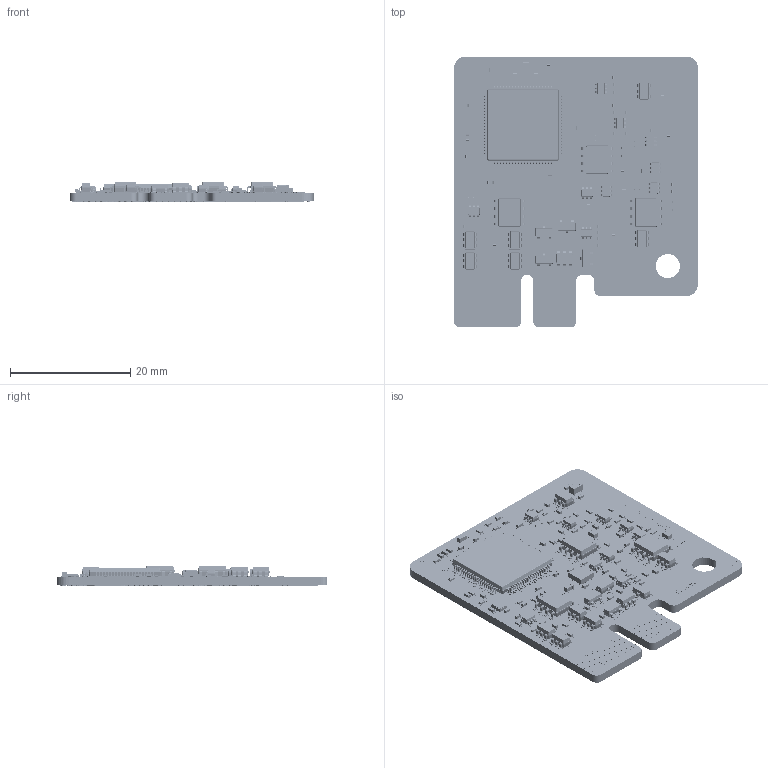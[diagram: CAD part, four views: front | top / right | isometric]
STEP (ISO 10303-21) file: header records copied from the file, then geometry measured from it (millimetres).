
FILE_DESCRIPTION(/* description */ (''),/* implementation_level */ '2;1');
FILE_NAME(/* name */ 'C:/work/PADS designs/SlotTypeModule/TMCM-MCU/V12/3D/TMCM-0930_V12.step',/* time_stamp */ '2020-11-03T16:26:38+02:00',/* author */ (''),/* organization */ (''),/* preprocessor_version */ 'ST-DEVELOPER v18.1',/* originating_system */ 'Autodesk Translation Framework v9.3.0.1241',/* authorisation */ '');
FILE_SCHEMA (('AUTOMOTIVE_DESIGN { 1 0 10303 214 3 1 1 }'));
Products named in the file (110): TMCM-0930_V12; DesignRootModel; Submodel-REFF9505_part_simplified_R0402; Submodel-DIE225C4_part_simplified_SOT23D; Submodel-DIE225C4_part_simplified_SOT23F; Submodel-DIE225C4_part_simplified_SOT23E; Submodel-C:workDS designslotTypeModuleTMCM-MCUV12CADTMCM-0930_V12_PCB
3DInput_Ssot23.xtd; sot23; Submodel-DICEEA91_part_simplified_SOT23-6H; Submodel-DICEEA91_part_simplified_SOT23-6F; Submodel-DICEEA91_part_simplified_SOT23-6E; Submodel-CAB2742A_part_simplified_C0402P; Submodel-CAB2742A_part_simplified_C0402H; Submodel-CA1180F6_part_simplified_C0603; Submodel-CA1180F6_part_simplified_C0603B; Submodel-C:workDS designslotTypeModuleTMCM-MCUV12CADTMCM-0930_V12_PCB
3DInput_Sc0603.xtd; c0603; Submodel-CAB2742A_part_simplified_C0402F; Submodel-REFF9505_part_simplified_R0402B; Submodel-noModelForPart_REFF9505; r0402.xtd; Submodel-INA599E7_part_simplified_R0402; Submodel-CAB2742A_part_simplified_C0402E; Submodel-CAB2742A_part_simplified_C0402I; Submodel-CAB2742A_part_simplified_C0402U; Submodel-CAB2742A_part_simplified_C0402O; Submodel-CAB2742A_part_simplified_C0402R; Submodel-CAB2742A_part_simplified_C0402G; Submodel-REE0DFA5_part_simplified_R0402; Submodel-IC168FEA_part_simplified_SOT363E; Submodel-IC168FEA_part_simplified_SOT363; Submodel-C:workDS designslotTypeModuleTMCM-MCUV12CADTMCM-0930_V12_PCB
3DInput_Ssot363.xtd; sot363; Submodel-DICEEA91_part_simplified_SOT23-6GA; Submodel-DICEEA91_part_simplified_SOT23-6I; Submodel-CAB2742A_part_simplified_C0402J; Submodel-CAB2742A_part_simplified_C0402M; Submodel-CA8114A5_part_simplified_C0805; Submodel-C:workDS designslotTypeModuleTMCM-MCUV12CADTMCM-0930_V12_PCB
3DInput_Sc0805.xtd; c0805 ...
Assembly tree (204 placements, depth 5):
  TMCM-0930_V12
    DesignRootModel
      Submodel-REFF9505_part_simplified_R0402
        Submodel-noModelForPart_REFF9505
          r0402.xtd
      Submodel-RED988E7_part_simplified_R0402  x29
        Submodel-C:workDS designslotTypeModuleTMCM-MCUV12CADTMCM-0930_V12_PCB
3DInput_Sr0402.xtd
          r0402
      Submodel-CA39294E_part_simplified_C0402  x2
        Submodel-C:workDS designslotTypeModuleTMCM-MCUV12CADTMCM-0930_V12_PCB
3DInput_Sc0402.xtd
          c0402
      Submodel-DIE225C4_part_simplified_SOT23D
        Submodel-C:workDS designslotTypeModuleTMCM-MCUV12CADTMCM-0930_V12_PCB
3DInput_Ssot23.xtd
          sot23
      Submodel-DIE225C4_part_simplified_SOT23F
        Submodel-C:workDS designslotTypeModuleTMCM-MCUV12CADTMCM-0930_V12_PCB
3DInput_Ssot23.xtd
          sot23
      Submodel-DIE225C4_part_simplified_SOT23E
        Submodel-C:workDS designslotTypeModuleTMCM-MCUV12CADTMCM-0930_V12_PCB
3DInput_Ssot23.xtd
          sot23
      Submodel-DICEEA91_part_simplified_SOT23-6H
        Submodel-C:workDS designslotTypeModuleTMCM-MCUV12CADTMCM-0930_V12_PCB
3DInput_Ssot23-6.xtd
          sot23-6
      Submodel-DICEEA91_part_simplified_SOT23-6F
        Submodel-C:workDS designslotTypeModuleTMCM-MCUV12CADTMCM-0930_V12_PCB
3DInput_Ssot23-6.xtd
          sot23-6
      Submodel-DICEEA91_part_simplified_SOT23-6E
        Submodel-C:workDS designslotTypeModuleTMCM-MCUV12CADTMCM-0930_V12_PCB
3DInput_Ssot23-6.xtd
          sot23-6
      Submodel-CAB2742A_part_simplified_C0402P
        Submodel-C:workDS designslotTypeModuleTMCM-MCUV12CADTMCM-0930_V12_PCB
3DInput_Sc0402.xtd
          c0402
      Submodel-CAB2742A_part_simplified_C0402H
        Submodel-C:workDS designslotTypeModuleTMCM-MCUV12CADTMCM-0930_V12_PCB
3DInput_Sc0402.xtd
          c0402
      Submodel-IC168FEA_part_simplified_SOT363  x3
        Submodel-C:workDS designslotTypeModuleTMCM-MCUV12CADTMCM-0930_V12_PCB
3DInput_Ssot363.xtd
          sot363
      Submodel-CAB2742A_part_simplified_C0402  x18
        Submodel-C:workDS designslotTypeModuleTMCM-MCUV12CADTMCM-0930_V12_PCB
3DInput_Sc0402.xtd
          c0402
      Submodel-CA1180F6_part_simplified_C0603  x2
        Submodel-C:workDS designslotTypeModuleTMCM-MCUV12CADTMCM-0930_V12_PCB
3DInput_Sc0603.xtd
          c0603
      Submodel-CA1180F6_part_simplified_C0603B
        Submodel-C:workDS designslotTypeModuleTMCM-MCUV12CADTMCM-0930_V12_PCB
3DInput_Sc0603.xtd
          c0603
      Submodel-CAB2742A_part_simplified_C0402F
        Submodel-C:workDS designslotTypeModuleTMCM-MCUV12CADTMCM-0930_V12_PCB
3DInput_Sc0402.xtd
          c0402
      Submodel-REFF9505_part_simplified_R0402B
        Submodel-noModelForPart_REFF9505
          r0402.xtd
      Submodel-INA599E7_part_simplified_R0402
        Submodel-C:workDS designslotTypeModuleTMCM-MCUV12CADTMCM-0930_V12_PCB
3DInput_Sr0402.xtd
          r0402
      Submodel-CAB2742A_part_simplified_C0402E
        Submodel-C:workDS designslotTypeModuleTMCM-MCUV12CADTMCM-0930_V12_PCB
3DInput_Sc0402.xtd
          c0402
      Submodel-CAB2742A_part_simplified_C0402I
Bounding box: 40.5 x 45 x 3.29 mm (x, y, z)
Volume: 2870.3 mm3; surface area: 12172.8 mm2
Topology: 885 solids, 887 shells, 21562 faces, 57173 edges, 37541 vertices
Faces by surface type: plane 15211, cylinder 6146, bspline 203, sphere 2
Full cylindrical faces by diameter (mm): 0.375 x1, 0.45 x264, 0.5 x1, 0.6 x3, 1 x3, 1.5 x1, 1.6 x5, 2 x12, 2.8 x3, 4 x1, 4.1 x2
Entity records: 548378 total; most frequent: CARTESIAN_POINT 100516, ORIENTED_EDGE 92386, DIRECTION 90944, EDGE_CURVE 46197, LINE 36016, VECTOR 36016, VERTEX_POINT 30565, AXIS2_PLACEMENT_3D 27464
